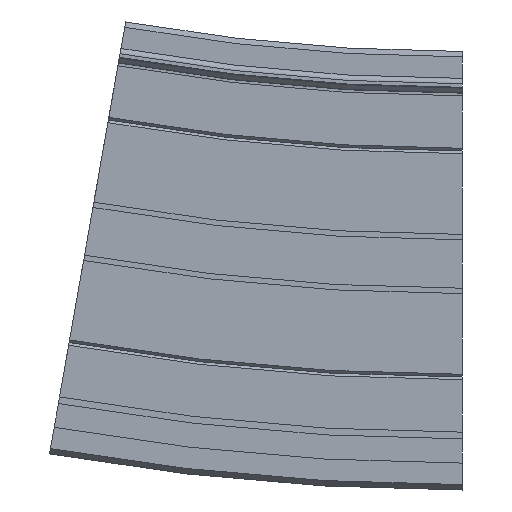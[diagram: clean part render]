
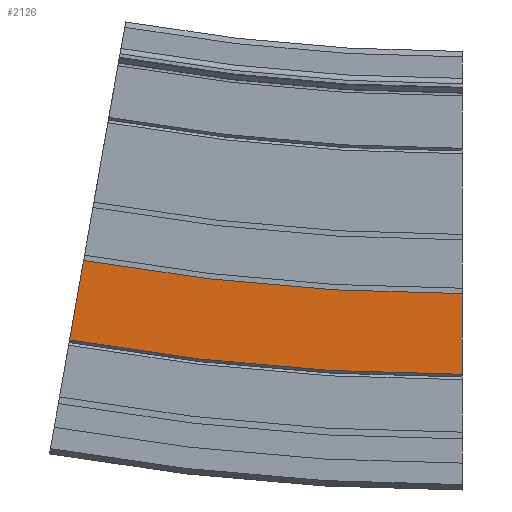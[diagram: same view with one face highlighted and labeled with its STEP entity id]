
A CAD part, left-side view. The second image highlights one B-rep face of the part: STEP entity #2126.
In plain terms, the highlighted planar face has unit normal (-1, 0, 0).
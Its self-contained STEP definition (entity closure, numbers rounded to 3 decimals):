
#214=CIRCLE('',#2314,405.5);
#215=CIRCLE('',#2316,420.5);
#325=FACE_OUTER_BOUND('',#443,.T.);
#443=EDGE_LOOP('',(#1725,#1726,#1727,#1728));
#593=LINE('',#8168,#771);
#594=LINE('',#8170,#772);
#771=VECTOR('',#2772,10.);
#772=VECTOR('',#2773,10.);
#983=VERTEX_POINT('',#8161);
#984=VERTEX_POINT('',#8163);
#985=VERTEX_POINT('',#8167);
#986=VERTEX_POINT('',#8169);
#1271=EDGE_CURVE('',#983,#984,#214,.T.);
#1272=EDGE_CURVE('',#985,#983,#593,.T.);
#1273=EDGE_CURVE('',#986,#984,#594,.T.);
#1274=EDGE_CURVE('',#985,#986,#215,.T.);
#1725=ORIENTED_EDGE('',*,*,#1272,.T.);
#1726=ORIENTED_EDGE('',*,*,#1271,.T.);
#1727=ORIENTED_EDGE('',*,*,#1273,.F.);
#1728=ORIENTED_EDGE('',*,*,#1274,.F.);
#2030=PLANE('',#2315);
#2126=ADVANCED_FACE('',(#325),#2030,.T.);
#2314=AXIS2_PLACEMENT_3D('',#8165,#2768,#2769);
#2315=AXIS2_PLACEMENT_3D('',#8166,#2770,#2771);
#2316=AXIS2_PLACEMENT_3D('',#8171,#2774,#2775);
#2768=DIRECTION('center_axis',(1.,0.,0.));
#2769=DIRECTION('ref_axis',(0.,0.,-1.));
#2770=DIRECTION('center_axis',(-1.,0.,0.));
#2771=DIRECTION('ref_axis',(0.,0.,1.));
#2772=DIRECTION('',(0.,0.,1.));
#2773=DIRECTION('',(0.,-0.174,0.985));
#2774=DIRECTION('center_axis',(1.,0.,0.));
#2775=DIRECTION('ref_axis',(0.,0.,-1.));
#8161=CARTESIAN_POINT('',(-112.,0.,-5.5));
#8163=CARTESIAN_POINT('',(-112.,70.414,0.66));
#8165=CARTESIAN_POINT('Origin',(-112.,0.,400.));
#8166=CARTESIAN_POINT('Origin',(-112.,0.,-20.5));
#8167=CARTESIAN_POINT('',(-112.,0.,-20.5));
#8168=CARTESIAN_POINT('',(-112.,0.,-20.5));
#8169=CARTESIAN_POINT('',(-112.,73.019,-14.111));
#8170=CARTESIAN_POINT('',(-112.,73.019,-14.111));
#8171=CARTESIAN_POINT('Origin',(-112.,0.,400.));
